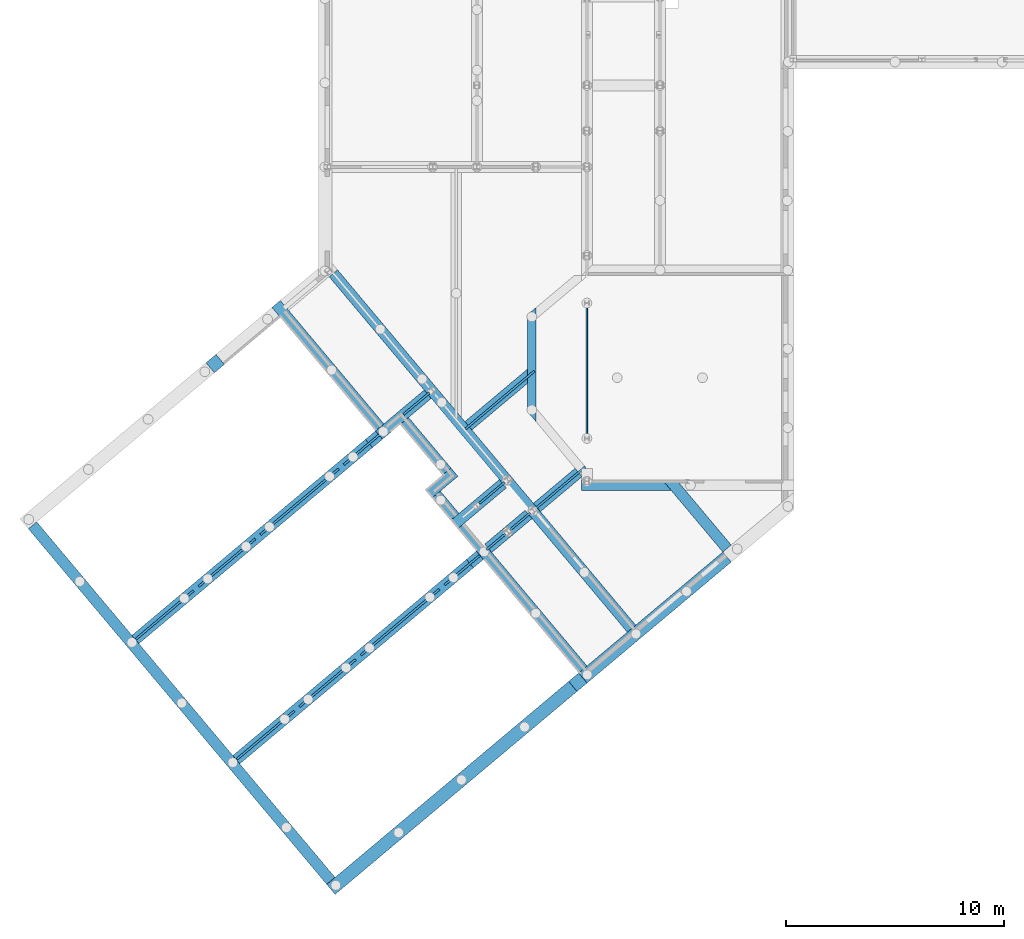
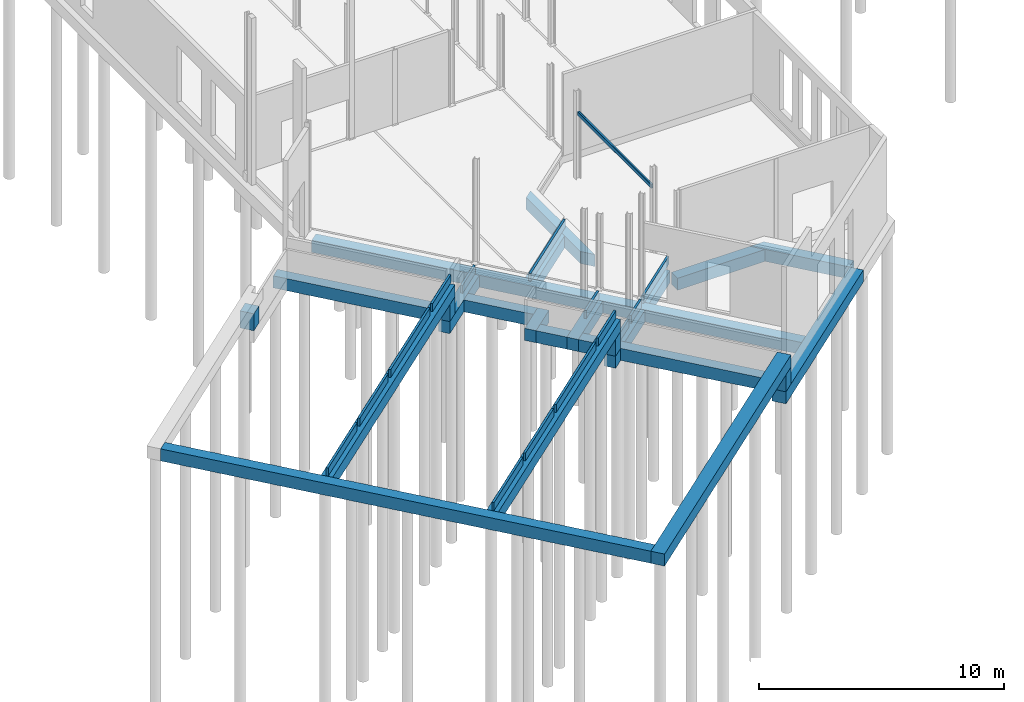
# One storey, part 11 of 18: 37 beams.
"""IFC2X3 building model written with IfcOpenShell, lengths in millimetres."""

from ifc_helpers import new_model, entity, si_unit, converted_unit, derived_unit, direction, frame, frame_2d, origin, origin_2d_with_axis, place, context, subcontext, project, spatial, polyline, circle_curve, parameter, trimmed, segment, composite_curve, rectangle, outline, extrude, clip, halfspace, source, transform, mapped, material, type_object, type_shapes, element, save


model = new_model("IFC2X3")

# Units and contexts
model_context = context("Model", 3, precision=0.01, world=origin(), true_north=direction((6.12303176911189e-17, 1.0)))
body_context = subcontext(model_context, "Body", "Model", "MODEL_VIEW")
ifc_project = project(units=[si_unit("LENGTHUNIT", "METRE", prefix="MILLI"), si_unit("AREAUNIT", "SQUARE_METRE"), si_unit("VOLUMEUNIT", "CUBIC_METRE"), converted_unit("PLANEANGLEUNIT", "DEGREE", entity("IfcRatioMeasure", 0.0174532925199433), si_unit("PLANEANGLEUNIT", "RADIAN"), dimensions=[0, 0, 0, 0, 0, 0, 0]), si_unit("MASSUNIT", "GRAM", prefix="KILO"), derived_unit("MASSDENSITYUNIT", [(si_unit("MASSUNIT", "GRAM", prefix="KILO"), 1), (si_unit("LENGTHUNIT", "METRE"), -3)]), derived_unit("MOMENTOFINERTIAUNIT", [(si_unit("LENGTHUNIT", "METRE"), 4)]), si_unit("TIMEUNIT", "SECOND"), si_unit("FREQUENCYUNIT", "HERTZ"), si_unit("THERMODYNAMICTEMPERATUREUNIT", "DEGREE_CELSIUS"), derived_unit("THERMALTRANSMITTANCEUNIT", [(si_unit("MASSUNIT", "GRAM", prefix="KILO"), 1), (si_unit("THERMODYNAMICTEMPERATUREUNIT", "KELVIN"), -1), (si_unit("TIMEUNIT", "SECOND"), -3)]), derived_unit("VOLUMETRICFLOWRATEUNIT", [(si_unit("LENGTHUNIT", "METRE"), 3), (si_unit("TIMEUNIT", "SECOND"), -1)]), si_unit("ELECTRICCURRENTUNIT", "AMPERE"), si_unit("ELECTRICVOLTAGEUNIT", "VOLT"), si_unit("POWERUNIT", "WATT"), si_unit("FORCEUNIT", "NEWTON", prefix="KILO"), si_unit("ILLUMINANCEUNIT", "LUX"), si_unit("LUMINOUSFLUXUNIT", "LUMEN"), si_unit("LUMINOUSINTENSITYUNIT", "CANDELA"), derived_unit("USERDEFINED", [(si_unit("MASSUNIT", "GRAM", prefix="KILO"), -1), (si_unit("LENGTHUNIT", "METRE"), -2), (si_unit("TIMEUNIT", "SECOND"), 3), (si_unit("LUMINOUSFLUXUNIT", "LUMEN"), 1)]), derived_unit("LINEARVELOCITYUNIT", [(si_unit("LENGTHUNIT", "METRE"), 1), (si_unit("TIMEUNIT", "SECOND"), -1)]), si_unit("PRESSUREUNIT", "PASCAL"), derived_unit("USERDEFINED", [(si_unit("LENGTHUNIT", "METRE"), -2), (si_unit("MASSUNIT", "GRAM", prefix="KILO"), 1), (si_unit("TIMEUNIT", "SECOND"), -2)]), derived_unit("LINEARFORCEUNIT", [(si_unit("MASSUNIT", "GRAM", prefix="KILO"), 1), (si_unit("LENGTHUNIT", "METRE"), 1), (si_unit("TIMEUNIT", "SECOND"), -2), (si_unit("LENGTHUNIT", "METRE"), -1)]), derived_unit("PLANARFORCEUNIT", [(si_unit("MASSUNIT", "GRAM", prefix="KILO"), 1), (si_unit("LENGTHUNIT", "METRE"), 1), (si_unit("TIMEUNIT", "SECOND"), -2), (si_unit("LENGTHUNIT", "METRE"), -2)])], contexts=[model_context])

# Site, building, storey
site_placement = place(None, origin())
site = spatial("IfcSite", under=ifc_project, at=site_placement, Name="Default", CompositionType="ELEMENT")
building_placement = place(site_placement, origin())
building = spatial("IfcBuilding", under=site, at=building_placement, CompositionType="ELEMENT")
storey_placement = place(building_placement, frame((0.0, 0.0, -1085.0)))
storey = spatial("IfcBuildingStorey", under=building, at=storey_placement, Name="-00 fundatie", CompositionType="ELEMENT", Elevation=-1085.0)

# Beams
ifc_material_1 = material(Name="f2_beton ihwg")
beam_type_1 = type_object("IfcBeamType", Name="BERSnl_28_SF_LIB_balk vierkant beton_gen_ISR:balk vierkant_gen_600X600", PredefinedType="JOIST")
beam_1_placement = place(storey_placement, frame((24971.5392660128, -7653.08595034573, 600.0), z_axis=(0.0, 0.0, 1.0), x_axis=(0.766044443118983, 0.642787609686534, 0.0)))
element("IfcBeam", 1, at=beam_1_placement, inside=storey, type_object=beam_type_1, material=ifc_material_1, Name="BERSnl_28_SF_LIB_balk vierkant beton_gen_ISR:balk vierkant_gen_600X600", ObjectType="BERSnl_28_SF_LIB_balk vierkant beton_gen_ISR:balk vierkant_gen_600X600", context=body_context, shape_type="SweptSolid", body=[
    extrude(rectangle(XDim=600.000000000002, YDim=600.000000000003, at=frame_2d((1.4210854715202e-13, -8.24229573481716e-13), x_axis=(1.0, 0.0))), frame((0.0, 0.0, -300.0), z_axis=(1.0, 0.0, 0.0), x_axis=(0.0, 0.0, -1.0)), (0.0, 0.0, 1.0), 9235.32804093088),
])
beam_2_placement = place(storey_placement, frame((14093.7081737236, -16780.6700078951, 2050.0), z_axis=(0.0, 0.0, 1.0), x_axis=(0.766044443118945, 0.642787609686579, 0.0)))
element("IfcBeam", 2, at=beam_2_placement, inside=storey, type_object=beam_type_1, material=ifc_material_1, Name="BERSnl_28_SF_LIB_balk vierkant beton_gen_ISR:balk vierkant_gen_600X600", ObjectType="BERSnl_28_SF_LIB_balk vierkant beton_gen_ISR:balk vierkant_gen_600X600", context=body_context, shape_type="SweptSolid", body=[
    extrude(rectangle(XDim=600.000000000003, YDim=600.0, at=frame_2d((0.0, -6.82121026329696e-13), x_axis=(1.0, 0.0))), frame((-290.00006610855, 0.0, -300.0), z_axis=(1.0, 0.0, 0.0), x_axis=(0.0, 0.0, -1.0)), (0.0, 0.0, 1.0), 15090.0000661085),
])
beam_type_2 = type_object("IfcBeamType", Name="BERSnl_28_SF_LIB_balk vierkant beton_gen_ISR:balk vierkant_gen_500X600", PredefinedType="JOIST")
beam_3_placement = place(storey_placement, frame((25615.4349765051, 1577.29662827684, 600.0)))
element("IfcBeam", 3, at=beam_3_placement, inside=storey, type_object=beam_type_2, material=ifc_material_1, Name="BERSnl_28_SF_LIB_balk vierkant beton_gen_ISR:balk vierkant_gen_500X600", ObjectType="BERSnl_28_SF_LIB_balk vierkant beton_gen_ISR:balk vierkant_gen_500X600", context=body_context, shape_type="SweptSolid", body=[
    clip(extrude(rectangle(XDim=600.000000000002, YDim=499.999999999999, at=frame_2d((-1.70530256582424e-13, 1.2590817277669e-11), x_axis=(1.0, 0.0))), frame((-250.0, 0.0, -300.0), z_axis=(1.0, 0.0, 0.0), x_axis=(0.0, 0.0, -1.0)), (0.0, 0.0, 1.0), 4126.53312396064), halfspace(frame((6229.77633009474, -3054.48604515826, 0.0), z_axis=(0.766044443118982, 0.642787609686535, 0.0), x_axis=(-0.642787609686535, 0.766044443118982, 0.0)), False)),
])
beam_4_placement = place(storey_placement, frame((32051.1379318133, -1333.67225557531, 600.0), z_axis=(0.0, 0.0, 1.0), x_axis=(-0.642787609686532, 0.766044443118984, 0.0)))
element("IfcBeam", 4, at=beam_4_placement, inside=storey, type_object=beam_type_2, material=ifc_material_1, Name="BERSnl_28_SF_LIB_balk vierkant beton_gen_ISR:balk vierkant_gen_500X600", ObjectType="BERSnl_28_SF_LIB_balk vierkant beton_gen_ISR:balk vierkant_gen_500X600", context=body_context, shape_type="SweptSolid", body=[
    clip(extrude(rectangle(XDim=600.000000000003, YDim=500.000000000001, at=frame_2d((-2.8421709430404e-14, 5.14432940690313e-12), x_axis=(1.0, 0.0))), frame((9.72655928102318, 0.0, -300.0), z_axis=(1.0, 0.0, 0.0), x_axis=(0.0, 0.0, -1.0)), (0.0, 0.0, 1.0), 4326.40017084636), halfspace(frame((4348.89819571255, 265.220439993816, -1081.02496759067), z_axis=(0.766044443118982, -0.642787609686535, 0.0), x_axis=(-0.642787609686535, -0.766044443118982, 0.0)), False)),
])
beam_5_placement = place(storey_placement, frame((14063.0663453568, -16806.3815547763, 2050.0), z_axis=(0.0, 0.0, 1.0), x_axis=(-0.642787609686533, 0.766044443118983, 0.0)))
element("IfcBeam", 5, at=beam_5_placement, inside=storey, type_object=beam_type_2, material=ifc_material_1, Name="BERSnl_28_SF_LIB_balk vierkant beton_gen_ISR:balk vierkant_gen_500X600", ObjectType="BERSnl_28_SF_LIB_balk vierkant beton_gen_ISR:balk vierkant_gen_500X600", context=body_context, shape_type="SweptSolid", body=[
    extrude(rectangle(XDim=600.000000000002, YDim=500.000000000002, at=origin_2d_with_axis()), frame((300.0, 0.0, -300.0), z_axis=(1.0, 0.0, 0.0), x_axis=(0.0, 0.0, -1.0)), (0.0, 0.0, 1.0), 21293.9999999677),
])
beam_6_placement = place(storey_placement, frame((25622.6770426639, -7106.71648211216, 600.0), z_axis=(0.0, 0.0, 1.0), x_axis=(-0.642787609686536, 0.766044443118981, 0.0)))
element("IfcBeam", 6, at=beam_6_placement, inside=storey, type_object=beam_type_2, material=ifc_material_1, Name="BERSnl_28_SF_LIB_balk vierkant beton_gen_ISR:balk vierkant_gen_500X600", ObjectType="BERSnl_28_SF_LIB_balk vierkant beton_gen_ISR:balk vierkant_gen_500X600", context=body_context, shape_type="SweptSolid", body=[
    extrude(rectangle(XDim=600.000000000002, YDim=500.000000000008, at=frame_2d((-5.6843418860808e-14, -2.70006239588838e-12), x_axis=(1.0, 0.0))), frame((300.0, 0.0, -300.0), z_axis=(1.0, 0.0, 0.0), x_axis=(0.0, 0.0, -1.0)), (0.0, 0.0, 1.0), 10974.9999999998),
])
beam_7_placement = place(storey_placement, frame((27855.6965943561, -5232.99059987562, 600.0), z_axis=(0.0, 0.0, 1.0), x_axis=(-0.642787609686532, 0.766044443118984, 0.0)))
element("IfcBeam", 7, at=beam_7_placement, inside=storey, type_object=beam_type_2, material=ifc_material_1, Name="BERSnl_28_SF_LIB_balk vierkant beton_gen_ISR:balk vierkant_gen_500X600", ObjectType="BERSnl_28_SF_LIB_balk vierkant beton_gen_ISR:balk vierkant_gen_500X600", context=body_context, shape_type="SweptSolid", body=[
    extrude(rectangle(XDim=600.000000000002, YDim=500.0, at=frame_2d((0.0, 4.53326265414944e-12), x_axis=(1.0, 0.0))), frame((300.0, 0.0, -300.0), z_axis=(1.0, 0.0, 0.0), x_axis=(0.0, 0.0, -1.0)), (0.0, 0.0, 1.0), 21281.2999999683),
])
beam_8_placement = place(storey_placement, frame((23131.2076631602, 397.436057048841, 600.0), z_axis=(0.0, 0.0, 1.0), x_axis=(0.766044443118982, 0.642787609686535, 0.0)))
element("IfcBeam", 8, at=beam_8_placement, inside=storey, type_object=beam_type_2, material=ifc_material_1, Name="BERSnl_28_SF_LIB_balk vierkant beton_gen_ISR:balk vierkant_gen_500X600", ObjectType="BERSnl_28_SF_LIB_balk vierkant beton_gen_ISR:balk vierkant_gen_500X600", context=body_context, shape_type="SweptSolid", body=[
    clip(extrude(rectangle(XDim=600.000000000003, YDim=499.999999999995, at=frame_2d((-2.8421709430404e-14, 7.105427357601e-14), x_axis=(1.0, 0.0))), frame((250.0, 0.0, -300.0), z_axis=(1.0, 0.0, 0.0), x_axis=(0.0, 0.0, -1.0)), (0.0, 0.0, 1.0), 2498.99524674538), halfspace(frame((2638.77747946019, -331.068124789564, 0.0), z_axis=(0.766044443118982, -0.642787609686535, 0.0), x_axis=(0.642787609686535, 0.766044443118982, 0.0)), False)),
])
beam_9_placement = place(storey_placement, frame((9338.57741416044, -11175.9548978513, 2050.0), z_axis=(0.0, 0.0, 1.0), x_axis=(0.766044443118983, 0.642787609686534, 0.0)))
element("IfcBeam", 9, at=beam_9_placement, inside=storey, type_object=beam_type_2, material=ifc_material_1, Name="BERSnl_28_SF_LIB_balk vierkant beton_gen_ISR:balk vierkant_gen_500X600", ObjectType="BERSnl_28_SF_LIB_balk vierkant beton_gen_ISR:balk vierkant_gen_500X600", context=body_context, shape_type="SweptSolid", body=[
    extrude(rectangle(XDim=600.000000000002, YDim=499.999999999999, at=frame_2d((8.5265128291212e-14, -1.16529008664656e-12), x_axis=(1.0, 0.0))), frame((250.0, 0.0, -300.0), z_axis=(1.0, 0.0, 0.0), x_axis=(0.0, 0.0, -1.0)), (0.0, 0.0, 1.0), 14590.0),
])
beam_10_placement = place(storey_placement, frame((4710.5066244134, -5660.4349073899, 2050.0), z_axis=(0.0, 0.0, 1.0), x_axis=(0.766044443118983, 0.642787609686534, 0.0)))
element("IfcBeam", 10, at=beam_10_placement, inside=storey, type_object=beam_type_2, material=ifc_material_1, Name="BERSnl_28_SF_LIB_balk vierkant beton_gen_ISR:balk vierkant_gen_500X600", ObjectType="BERSnl_28_SF_LIB_balk vierkant beton_gen_ISR:balk vierkant_gen_500X600", context=body_context, shape_type="SweptSolid", body=[
    extrude(rectangle(XDim=600.000000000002, YDim=500.000000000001, at=frame_2d((5.6843418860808e-14, 5.96855898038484e-13), x_axis=(1.0, 0.0))), frame((250.0, 0.0, -300.0), z_axis=(1.0, 0.0, 0.0), x_axis=(0.0, 0.0, -1.0)), (0.0, 0.0, 1.0), 14590.0),
])
beam_11_placement = place(storey_placement, frame((19716.7444848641, -68.3001387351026, 600.0), z_axis=(0.0, 0.0, 1.0), x_axis=(0.766044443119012, 0.642787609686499, 0.0)))
element("IfcBeam", 11, at=beam_11_placement, inside=storey, type_object=beam_type_2, material=ifc_material_1, Name="BERSnl_28_SF_LIB_balk vierkant beton_gen_ISR:balk vierkant_gen_500X600", ObjectType="BERSnl_28_SF_LIB_balk vierkant beton_gen_ISR:balk vierkant_gen_500X600", context=body_context, shape_type="SweptSolid", body=[
    extrude(rectangle(XDim=600.000000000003, YDim=499.999999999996, at=frame_2d((5.6843418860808e-14, -7.105427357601e-14), x_axis=(1.0, 0.0))), frame((-250.0, 0.0, -300.0), z_axis=(1.0, 0.0, 0.0), x_axis=(0.0, 0.0, -1.0)), (0.0, 0.0, 1.0), 2915.00000000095),
])
beam_12_placement = place(storey_placement, frame((18382.7347572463, 1210.36598133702, 600.0), z_axis=(0.0, 0.0, 1.0), x_axis=(0.766044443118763, 0.642787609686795, 0.0)))
element("IfcBeam", 12, at=beam_12_placement, inside=storey, type_object=beam_type_2, material=ifc_material_1, Name="BERSnl_28_SF_LIB_balk vierkant beton_gen_ISR:balk vierkant_gen_500X600", ObjectType="BERSnl_28_SF_LIB_balk vierkant beton_gen_ISR:balk vierkant_gen_500X600", context=body_context, shape_type="SweptSolid", body=[
    extrude(rectangle(XDim=600.000000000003, YDim=500.000000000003, at=frame_2d((8.5265128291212e-14, -1.4495071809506e-12), x_axis=(1.0, 0.0))), frame((-50.0, 0.0, -300.0), z_axis=(1.0, 0.0, 0.0), x_axis=(0.0, 0.0, -1.0)), (0.0, 0.0, 1.0), 1554.99999999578),
])
beam_13_placement = place(storey_placement, frame((19392.5742041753, 1959.31959521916, 600.0), z_axis=(0.0, 0.0, 1.0), x_axis=(-0.642787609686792, 0.766044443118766, 0.0)))
element("IfcBeam", 13, at=beam_13_placement, inside=storey, type_object=beam_type_2, material=ifc_material_1, Name="BERSnl_28_SF_LIB_balk vierkant beton_gen_ISR:balk vierkant_gen_500X600", ObjectType="BERSnl_28_SF_LIB_balk vierkant beton_gen_ISR:balk vierkant_gen_500X600", context=body_context, shape_type="SweptSolid", body=[
    extrude(rectangle(XDim=600.000000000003, YDim=500.000000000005, at=frame_2d((8.5265128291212e-14, 8.5265128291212e-14), x_axis=(1.0, 0.0))), frame((-75.0, 0.0, -300.0), z_axis=(1.0, 0.0, 0.0), x_axis=(0.0, 0.0, -1.0)), (0.0, 0.0, 1.0), 3425.38053019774),
])
beam_14_placement = place(storey_placement, frame((19987.9762517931, 4143.39338390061, 600.0), z_axis=(0.0, 0.0, 1.0), x_axis=(0.76604444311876, 0.642787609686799, 0.0)))
element("IfcBeam", 14, at=beam_14_placement, inside=storey, type_object=beam_type_2, material=ifc_material_1, Name="BERSnl_28_SF_LIB_balk vierkant beton_gen_ISR:balk vierkant_gen_500X600", ObjectType="BERSnl_28_SF_LIB_balk vierkant beton_gen_ISR:balk vierkant_gen_500X600", context=body_context, shape_type="SweptSolid", body=[
    clip(extrude(rectangle(XDim=600.000000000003, YDim=499.999999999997, at=frame_2d((2.8421709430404e-14, -2.01794136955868e-12), x_axis=(1.0, 0.0))), frame((250.0, 0.0, -300.0), z_axis=(1.0, 0.0, 0.0), x_axis=(0.0, 0.0, -1.0)), (0.0, 0.0, 1.0), 3748.66568402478), halfspace(frame((2859.16017551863, -1108.0097835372, 0.0), z_axis=(0.76604444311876, -0.6427876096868, 0.0), x_axis=(0.6427876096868, 0.76604444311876, 0.0)), False)),
])
beam_15_placement = place(storey_placement, frame((15618.9795450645, 3492.86069703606, 600.0), z_axis=(0.0, 0.0, 1.0), x_axis=(0.766044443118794, 0.642787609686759, 0.0)))
element("IfcBeam", 15, at=beam_15_placement, inside=storey, type_object=beam_type_2, material=ifc_material_1, Name="BERSnl_28_SF_LIB_balk vierkant beton_gen_ISR:balk vierkant_gen_500X600", ObjectType="BERSnl_28_SF_LIB_balk vierkant beton_gen_ISR:balk vierkant_gen_500X600", context=body_context, shape_type="SweptSolid", body=[
    extrude(rectangle(XDim=600.000000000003, YDim=500.000000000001, at=frame_2d((-2.8421709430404e-14, -2.43005615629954e-12), x_axis=(1.0, 0.0))), frame((0.0, 0.0, -300.0), z_axis=(1.0, 0.0, 0.0), x_axis=(0.0, 0.0, -1.0)), (0.0, 0.0, 1.0), 3515.00000000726),
])
beam_16_placement = place(storey_placement, frame((16113.2771449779, 4226.14500936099, 600.0), z_axis=(0.0, 0.0, 1.0), x_axis=(-0.642787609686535, 0.766044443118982, 0.0)))
element("IfcBeam", 16, at=beam_16_placement, inside=storey, type_object=beam_type_2, material=ifc_material_1, Name="BERSnl_28_SF_LIB_balk vierkant beton_gen_ISR:balk vierkant_gen_500X600", ObjectType="BERSnl_28_SF_LIB_balk vierkant beton_gen_ISR:balk vierkant_gen_500X600", context=body_context, shape_type="SweptSolid", body=[
    extrude(rectangle(XDim=600.000000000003, YDim=500.000000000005, at=frame_2d((8.5265128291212e-14, -1.70530256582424e-13), x_axis=(1.0, 0.0))), frame((6.00000003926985, 0.0, -300.0), z_axis=(1.0, 0.0, 0.0), x_axis=(0.0, 0.0, -1.0)), (0.0, 0.0, 1.0), 7393.99999996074),
])
beam_type_3 = type_object("IfcBeamType", Name="BERSnl_28_SF_LIB_balk vierkant beton_gen_ISR:balk vierkant_gen_400x600", PredefinedType="JOIST")
beam_17_placement = place(storey_placement, frame((23090.4349765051, 5033.84922350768, 600.0), z_axis=(0.0, 0.0, 1.0), x_axis=(0.0, 1.0, 0.0)))
element("IfcBeam", 17, at=beam_17_placement, inside=storey, type_object=beam_type_3, material=ifc_material_1, Name="BERSnl_28_SF_LIB_balk vierkant beton_gen_ISR:balk vierkant_gen_400x600", ObjectType="BERSnl_28_SF_LIB_balk vierkant beton_gen_ISR:balk vierkant_gen_400x600", context=body_context, shape_type="SweptSolid", body=[
    clip(clip(extrude(rectangle(XDim=600.000000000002, YDim=400.0, at=frame_2d((-1.70530256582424e-13, 0.0), x_axis=(1.0, 0.0))), frame((-549.495483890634, 0.0, -300.0), z_axis=(1.0, 0.0, 0.0), x_axis=(0.0, 0.0, -1.0)), (0.0, 0.0, 1.0), 5247.56972863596), halfspace(frame((-562.682473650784, -211.065198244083, 0.0), z_axis=(-0.642787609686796, 0.766044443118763, 0.0), x_axis=(0.766044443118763, 0.642787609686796, 0.0)), False)), halfspace(frame((4156.84767524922, 445.008708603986, 0.0), z_axis=(0.766044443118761, 0.642787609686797, 0.0), x_axis=(0.642787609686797, -0.766044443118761, 0.0)), False)),
])
beam_type_4 = type_object("IfcBeamType", Name="BERSnl_28_SF_LIB_balk vierkant beton_gen_ISR:balk vierkant_gen_600x850", PredefinedType="JOIST")
beam_18_placement = place(storey_placement, frame((24971.5392660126, -7653.08595034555, 1450.0), z_axis=(0.0, 0.0, 1.0), x_axis=(0.766044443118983, 0.642787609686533, 0.0)))
element("IfcBeam", 18, at=beam_18_placement, inside=storey, type_object=beam_type_4, material=ifc_material_1, Name="BERSnl_28_SF_LIB_balk vierkant beton_gen_ISR:balk vierkant_gen_600x850", ObjectType="BERSnl_28_SF_LIB_balk vierkant beton_gen_ISR:balk vierkant_gen_600x850", context=body_context, shape_type="SweptSolid", body=[
    extrude(rectangle(XDim=850.000000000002, YDim=599.999999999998, at=frame_2d((0.0, 1.81898940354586e-12), x_axis=(1.0, 0.0))), frame((0.0, 0.0, -425.0), z_axis=(1.0, 0.0, 0.0), x_axis=(0.0, 0.0, -1.0)), (0.0, 0.0, 1.0), 600.000000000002),
])
beam_19_placement = place(storey_placement, frame((8332.09845510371, 6965.35259482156, 1450.0), z_axis=(0.0, 0.0, 1.0), x_axis=(0.766044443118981, 0.642787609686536, 0.0)))
element("IfcBeam", 19, at=beam_19_placement, inside=storey, type_object=beam_type_4, material=ifc_material_1, Name="BERSnl_28_SF_LIB_balk vierkant beton_gen_ISR:balk vierkant_gen_600x850", ObjectType="BERSnl_28_SF_LIB_balk vierkant beton_gen_ISR:balk vierkant_gen_600x850", context=body_context, shape_type="SweptSolid", body=[
    extrude(rectangle(XDim=850.000000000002, YDim=599.999999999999, at=frame_2d((0.0, 4.54747350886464e-13), x_axis=(1.0, 0.0))), frame((0.0, 0.0, -425.0), z_axis=(1.0, 0.0, 0.0), x_axis=(0.0, 0.0, -1.0)), (0.0, 0.0, 1.0), 600.0),
])
beam_type_5 = type_object("IfcBeamType", Name="BERSnl_28_SF_LIB_balk vierkant beton_gen_ISR:balk vierkant_gen_500X600", PredefinedType="JOIST", material=ifc_material_1)
shared_shape = source(origin(), body_context, "Body", "SweptSolid", [
    extrude(rectangle(XDim=600.000000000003, YDim=499.999999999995, at=frame_2d((2.8421709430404e-14, -9.9475983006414e-14), x_axis=(1.0, 0.0))), frame((20247.039365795, -2022.6462210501, -785.0), z_axis=(0.766044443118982, 0.642787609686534, 0.0), x_axis=(0.0, 0.0, 1.0)), (0.0, 0.0, 1.0), 600.000000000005),
    extrude(rectangle(XDim=600.000000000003, YDim=500.0, at=frame_2d((-5.6843418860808e-14, 2.81374923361e-12), x_axis=(1.0, 0.0))), frame((21089.6882532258, -1315.57985039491, -785.0), z_axis=(0.766044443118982, 0.642787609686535, 0.0), x_axis=(0.0, 0.0, 1.0)), (0.0, 0.0, 1.0), 2415.00000000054),
])
type_shapes(beam_type_5, [shared_shape])
beam_20_placement = place(storey_placement, frame((0.0, 0.0, 1085.0)))
element("IfcBeam", 20, at=beam_20_placement, inside=storey, type_object=beam_type_5, Name="BERSnl_28_SF_LIB_balk vierkant beton_gen_ISR:balk vierkant_gen_500X600", ObjectType="BERSnl_28_SF_LIB_balk vierkant beton_gen_ISR:balk vierkant_gen_500X600", context=body_context, shape_type="MappedRepresentation", body=[
    mapped(shared_shape, transform((0.0, 0.0, 0.0), scale=1.0)),
])
beam_type_6 = type_object("IfcBeamType", Name="BERSnl_28_SF_LIB_balk vierkant beton_gen_ISR:balk vierkant_gen_500x850", PredefinedType="JOIST")
beam_21_placement = place(storey_placement, frame((20247.0503348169, -2022.65929342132, 1450.0), z_axis=(0.0, 0.0, 1.0), x_axis=(0.766044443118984, 0.642787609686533, 0.0)))
element("IfcBeam", 21, at=beam_21_placement, inside=storey, type_object=beam_type_6, material=ifc_material_1, Name="BERSnl_28_SF_LIB_balk vierkant beton_gen_ISR:balk vierkant_gen_500x850", ObjectType="BERSnl_28_SF_LIB_balk vierkant beton_gen_ISR:balk vierkant_gen_500x850", context=body_context, shape_type="SweptSolid", body=[
    extrude(rectangle(XDim=850.000000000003, YDim=500.000000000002, at=frame_2d((0.0, -2.94164692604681e-12), x_axis=(1.0, 0.0))), frame((0.0, 0.0, -425.0), z_axis=(1.0, 0.0, 0.0), x_axis=(0.0, 0.0, -1.0)), (0.0, 0.0, 1.0), 600.000000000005),
])
beam_22_placement = place(storey_placement, frame((15618.9795450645, 3492.86069703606, 1450.0), z_axis=(0.0, 0.0, 1.0), x_axis=(0.766044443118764, 0.642787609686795, 0.0)))
element("IfcBeam", 22, at=beam_22_placement, inside=storey, type_object=beam_type_6, material=ifc_material_1, Name="BERSnl_28_SF_LIB_balk vierkant beton_gen_ISR:balk vierkant_gen_500x850", ObjectType="BERSnl_28_SF_LIB_balk vierkant beton_gen_ISR:balk vierkant_gen_500x850", context=body_context, shape_type="SweptSolid", body=[
    extrude(rectangle(XDim=850.000000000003, YDim=499.999999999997, at=frame_2d((0.0, 1.10844666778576e-12), x_axis=(1.0, 0.0))), frame((0.0, 0.0, -425.0), z_axis=(1.0, 0.0, 0.0), x_axis=(0.0, 0.0, -1.0)), (0.0, 0.0, 1.0), 600.000000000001),
])
ifc_material_2 = material(Name="h2_staal S235")
beam_type_7 = type_object("IfcBeamType", Name="BERSnl_28_SF_LIB_balk koker ongelijk_gen_ISR:balk gen k200x100x10", PredefinedType="BEAM")
beam_23_placement = place(storey_placement, frame((25615.4349765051, 6872.29662827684, 3685.0), z_axis=(0.0, 0.0, 1.0), x_axis=(0.0, -1.0, 0.0)))
element("IfcBeam", 23, at=beam_23_placement, inside=storey, type_object=beam_type_7, material=ifc_material_2, Name="BERSnl_28_SF_LIB_balk koker ongelijk_gen_ISR:balk gen k200x100x10", ObjectType="BERSnl_28_SF_LIB_balk koker ongelijk_gen_ISR:balk gen k200x100x10", context=body_context, shape_type="SweptSolid", body=[
    extrude(outline(composite_curve([segment(trimmed(circle_curve(frame_2d((-30.0, -80.0), x_axis=(1.0, 0.0)), 20.0), [parameter(180.0)], [parameter(270.0)], True, "PARAMETER"), True, "CONTINUOUS"), segment(polyline([(-30.0, -100.0), (30.0, -100.0)]), True, "CONTINUOUS"), segment(trimmed(circle_curve(frame_2d((30.0, -80.0), x_axis=(1.0, 0.0)), 20.0), [parameter(270.0)], [parameter(5.08888749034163e-14)], True, "PARAMETER"), True, "CONTINUOUS"), segment(polyline([(50.0, -80.0), (50.0, 80.0)]), True, "CONTINUOUS"), segment(trimmed(circle_curve(frame_2d((30.0, 80.0), x_axis=(1.0, 0.0)), 20.0), [parameter(360.0)], [parameter(89.9999999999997)], True, "PARAMETER"), True, "CONTINUOUS"), segment(polyline([(30.0, 100.0), (-30.0, 100.0)]), True, "CONTINUOUS"), segment(trimmed(circle_curve(frame_2d((-30.0, 80.0), x_axis=(1.0, 0.0)), 20.0), [parameter(90.0000000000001)], [parameter(180.0)], True, "PARAMETER"), True, "CONTINUOUS"), segment(polyline([(-50.0, 80.0), (-50.0, -80.0)]), True, "CONTINUOUS")], self_intersect=False), holes=[composite_curve([segment(polyline([(30.0, -90.0), (-30.0, -90.0)]), True, "CONTINUOUS"), segment(trimmed(circle_curve(frame_2d((-30.0, -80.0), x_axis=(1.0, 0.0)), 10.0), [parameter(180.0)], [parameter(270.0)], True, "PARAMETER"), False, "CONTINUOUS"), segment(polyline([(-40.0, -80.0), (-40.0, 80.0)]), True, "CONTINUOUS"), segment(trimmed(circle_curve(frame_2d((-30.0, 80.0), x_axis=(1.0, 0.0)), 10.0), [parameter(90.0000000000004)], [parameter(180.0)], True, "PARAMETER"), False, "CONTINUOUS"), segment(polyline([(-30.0, 90.0), (30.0, 90.0)]), True, "CONTINUOUS"), segment(trimmed(circle_curve(frame_2d((30.0, 80.0), x_axis=(1.0, 0.0)), 10.0), [parameter(0.0)], [parameter(90.0000000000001)], True, "PARAMETER"), False, "CONTINUOUS"), segment(polyline([(40.0, 80.0), (40.0, -80.0)]), True, "CONTINUOUS"), segment(trimmed(circle_curve(frame_2d((30.0, -80.0), x_axis=(1.0, 0.0)), 10.0), [parameter(270.0)], [parameter(4.07110999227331e-13)], True, "PARAMETER"), False, "CONTINUOUS")], self_intersect=False)]), frame((-2955.0, 0.0, -100.0), z_axis=(1.0, 0.0, 0.0), x_axis=(0.0, -1.0, 0.0)), (0.0, 0.0, 1.0), 5994.99999996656),
])
beam_type_8 = type_object("IfcBeamType", Name="BERSnl_28_SF_LIB_balk vierkant beton_gen_ISR:balk vierkant 100x395", PredefinedType="JOIST")
beam_24_placement = place(storey_placement, frame((21007.7203730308, -1384.38134490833, 995.0), z_axis=(0.0, 0.0, 1.0), x_axis=(0.766044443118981, 0.642787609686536, 0.0)))
element("IfcBeam", 24, at=beam_24_placement, inside=storey, type_object=beam_type_8, material=ifc_material_1, Name="BERSnl_28_SF_LIB_balk vierkant beton_gen_ISR:balk vierkant 100x395", ObjectType="BERSnl_28_SF_LIB_balk vierkant beton_gen_ISR:balk vierkant 100x395", context=body_context, shape_type="SweptSolid", body=[
    extrude(rectangle(XDim=395.000000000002, YDim=99.9999999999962, at=frame_2d((2.8421709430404e-14, -1.03028696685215e-13), x_axis=(1.0, 0.0))), frame((7.39631752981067, 0.0, -197.500000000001), z_axis=(1.0, 0.0, 0.0), x_axis=(0.0, 0.0, -1.0)), (0.0, 0.0, 1.0), 1116.14863494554),
])
beam_25_placement = place(storey_placement, frame((23019.3134871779, 303.545695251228, 995.0), z_axis=(0.0, 0.0, 1.0), x_axis=(-0.766044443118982, -0.642787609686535, 0.0)))
element("IfcBeam", 25, at=beam_25_placement, inside=storey, type_object=beam_type_8, material=ifc_material_1, Name="BERSnl_28_SF_LIB_balk vierkant beton_gen_ISR:balk vierkant 100x395", ObjectType="BERSnl_28_SF_LIB_balk vierkant beton_gen_ISR:balk vierkant 100x395", context=body_context, shape_type="SweptSolid", body=[
    extrude(rectangle(XDim=395.000000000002, YDim=99.9999999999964, at=frame_2d((2.8421709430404e-14, 7.46069872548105e-14), x_axis=(1.0, 0.0))), frame((3.93252704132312, 0.0, -197.500000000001), z_axis=(1.0, 0.0, 0.0), x_axis=(0.0, 0.0, -1.0)), (0.0, 0.0, 1.0), 1198.47083486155),
])
beam_26_placement = place(storey_placement, frame((23250.76228357, 497.754294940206, 995.0), z_axis=(0.0, 0.0, 1.0), x_axis=(0.766044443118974, 0.642787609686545, 0.0)))
element("IfcBeam", 26, at=beam_26_placement, inside=storey, type_object=beam_type_8, material=ifc_material_1, Name="BERSnl_28_SF_LIB_balk vierkant beton_gen_ISR:balk vierkant 100x395", ObjectType="BERSnl_28_SF_LIB_balk vierkant beton_gen_ISR:balk vierkant 100x395", context=body_context, shape_type="SweptSolid", body=[
    extrude(rectangle(XDim=395.000000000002, YDim=99.9999999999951, at=frame_2d((-2.8421709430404e-14, -2.8421709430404e-14), x_axis=(1.0, 0.0))), frame((0.0, 0.0, -197.500000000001), z_axis=(1.0, 0.0, 0.0), x_axis=(0.0, 0.0, -1.0)), (0.0, 0.0, 1.0), 2990.0),
])
beam_27_placement = place(storey_placement, frame((18975.5114322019, -3089.60711763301, 2445.0), z_axis=(0.0, 0.0, 1.0), x_axis=(0.766044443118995, 0.642787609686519, 0.0)))
element("IfcBeam", 27, at=beam_27_placement, inside=storey, type_object=beam_type_8, material=ifc_material_1, Name="BERSnl_28_SF_LIB_balk vierkant beton_gen_ISR:balk vierkant 100x395", ObjectType="BERSnl_28_SF_LIB_balk vierkant beton_gen_ISR:balk vierkant 100x395", context=body_context, shape_type="SweptSolid", body=[
    extrude(rectangle(XDim=395.000000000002, YDim=99.9999999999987, at=frame_2d((7.105427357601e-14, 2.06057393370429e-13), x_axis=(1.0, 0.0))), frame((150.0, 0.0, -197.500000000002), z_axis=(1.0, 0.0, 0.0), x_axis=(0.0, 0.0, -1.0)), (0.0, 0.0, 1.0), 2101.39442191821),
])
beam_28_placement = place(storey_placement, frame((18855.1528126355, -3190.59999092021, 2445.0), z_axis=(0.0, 0.0, 1.0), x_axis=(-0.766044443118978, -0.64278760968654, 0.0)))
element("IfcBeam", 28, at=beam_28_placement, inside=storey, type_object=beam_type_8, material=ifc_material_1, Name="BERSnl_28_SF_LIB_balk vierkant beton_gen_ISR:balk vierkant 100x395", ObjectType="BERSnl_28_SF_LIB_balk vierkant beton_gen_ISR:balk vierkant 100x395", context=body_context, shape_type="SweptSolid", body=[
    extrude(rectangle(XDim=395.000000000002, YDim=99.9999999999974, at=frame_2d((0.0, -2.02504679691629e-13), x_axis=(1.0, 0.0))), frame((0.0, 0.0, -197.500000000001), z_axis=(1.0, 0.0, 0.0), x_axis=(0.0, 0.0, -1.0)), (0.0, 0.0, 1.0), 4715.0),
])
beam_29_placement = place(storey_placement, frame((12431.5888660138, -8580.61012937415, 2445.0), z_axis=(0.0, 0.0, 1.0), x_axis=(0.766044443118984, 0.642787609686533, 0.0)))
element("IfcBeam", 29, at=beam_29_placement, inside=storey, type_object=beam_type_8, material=ifc_material_1, Name="BERSnl_28_SF_LIB_balk vierkant beton_gen_ISR:balk vierkant 100x395", ObjectType="BERSnl_28_SF_LIB_balk vierkant beton_gen_ISR:balk vierkant 100x395", context=body_context, shape_type="SweptSolid", body=[
    extrude(rectangle(XDim=395.000000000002, YDim=99.9999999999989, at=origin_2d_with_axis()), frame((0.0, 0.0, -197.500000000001), z_axis=(1.0, 0.0, 0.0), x_axis=(0.0, 0.0, -1.0)), (0.0, 0.0, 1.0), 3366.27028203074),
])
beam_30_placement = place(storey_placement, frame((12190.070840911, -8783.26781516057, 2445.0), z_axis=(0.0, 0.0, 1.0), x_axis=(-0.766044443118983, -0.642787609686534, 0.0)))
element("IfcBeam", 30, at=beam_30_placement, inside=storey, type_object=beam_type_8, material=ifc_material_1, Name="BERSnl_28_SF_LIB_balk vierkant beton_gen_ISR:balk vierkant 100x395", ObjectType="BERSnl_28_SF_LIB_balk vierkant beton_gen_ISR:balk vierkant 100x395", context=body_context, shape_type="SweptSolid", body=[
    extrude(rectangle(XDim=395.000000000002, YDim=99.9999999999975, at=frame_2d((-7.105427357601e-14, 4.15667500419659e-13), x_axis=(1.0, 0.0))), frame((0.0, 0.0, -197.500000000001), z_axis=(1.0, 0.0, 0.0), x_axis=(0.0, 0.0, -1.0)), (0.0, 0.0, 1.0), 3442.57123357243),
])
beam_31_placement = place(storey_placement, frame((7562.00005116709, -3267.74782470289, 2445.0), z_axis=(0.0, 0.0, 1.0), x_axis=(-0.766044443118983, -0.642787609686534, 0.0)))
element("IfcBeam", 31, at=beam_31_placement, inside=storey, type_object=beam_type_8, material=ifc_material_1, Name="BERSnl_28_SF_LIB_balk vierkant beton_gen_ISR:balk vierkant 100x395", ObjectType="BERSnl_28_SF_LIB_balk vierkant beton_gen_ISR:balk vierkant 100x395", context=body_context, shape_type="SweptSolid", body=[
    extrude(rectangle(XDim=395.000000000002, YDim=99.9999999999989, at=frame_2d((-7.105427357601e-14, 9.73443547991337e-13), x_axis=(1.0, 0.0))), frame((0.0, 0.0, -197.500000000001), z_axis=(1.0, 0.0, 0.0), x_axis=(0.0, 0.0, -1.0)), (0.0, 0.0, 1.0), 3442.57123357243),
])
beam_32_placement = place(storey_placement, frame((7804.05367562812, -3064.64071769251, 2445.0), z_axis=(0.0, 0.0, 1.0), x_axis=(0.766044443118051, 0.642787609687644, 0.0)))
element("IfcBeam", 32, at=beam_32_placement, inside=storey, type_object=beam_type_8, material=ifc_material_1, Name="BERSnl_28_SF_LIB_balk vierkant beton_gen_ISR:balk vierkant 100x395", ObjectType="BERSnl_28_SF_LIB_balk vierkant beton_gen_ISR:balk vierkant 100x395", context=body_context, shape_type="SweptSolid", body=[
    extrude(rectangle(XDim=395.000000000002, YDim=99.999999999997, at=origin_2d_with_axis()), frame((0.0, 0.0, -197.500000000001), z_axis=(1.0, 0.0, 0.0), x_axis=(0.0, 0.0, -1.0)), (0.0, 0.0, 1.0), 3391.50204906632),
])
beam_33_placement = place(storey_placement, frame((14225.4557266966, 2323.5553749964, 2445.0), z_axis=(0.0, 0.0, 1.0), x_axis=(-0.766044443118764, -0.642787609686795, 0.0)))
element("IfcBeam", 33, at=beam_33_placement, inside=storey, type_object=beam_type_8, material=ifc_material_1, Name="BERSnl_28_SF_LIB_balk vierkant beton_gen_ISR:balk vierkant 100x395", ObjectType="BERSnl_28_SF_LIB_balk vierkant beton_gen_ISR:balk vierkant 100x395", context=body_context, shape_type="SweptSolid", body=[
    extrude(rectangle(XDim=395.000000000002, YDim=99.9999999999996, at=frame_2d((5.6843418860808e-14, -1.00541797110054e-12), x_axis=(1.0, 0.0))), frame((0.0, 0.0, -197.500000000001), z_axis=(1.0, 0.0, 0.0), x_axis=(0.0, 0.0, -1.0)), (0.0, 0.0, 1.0), 4690.0),
])
beam_34_placement = place(storey_placement, frame((14348.6091611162, 2425.57354431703, 2445.0), z_axis=(0.0, 0.0, 1.0), x_axis=(0.765754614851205, 0.643132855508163, 0.0)))
element("IfcBeam", 34, at=beam_34_placement, inside=storey, type_object=beam_type_8, material=ifc_material_1, Name="BERSnl_28_SF_LIB_balk vierkant beton_gen_ISR:balk vierkant 100x395", ObjectType="BERSnl_28_SF_LIB_balk vierkant beton_gen_ISR:balk vierkant 100x395", context=body_context, shape_type="SweptSolid", body=[
    extrude(rectangle(XDim=395.000000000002, YDim=99.9999999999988, at=frame_2d((5.6843418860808e-14, 2.06057393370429e-13), x_axis=(1.0, 0.0))), frame((149.932369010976, 0.0, -197.500000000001), z_axis=(1.0, 0.0, 0.0), x_axis=(0.0, 0.0, -1.0)), (0.0, 0.0, 1.0), 2206.84191738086),
])
beam_35_placement = place(storey_placement, frame((20003.5976311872, 4125.96054865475, 995.0), z_axis=(0.0, 0.0, 1.0), x_axis=(0.766044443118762, 0.642787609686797, 0.0)))
element("IfcBeam", 35, at=beam_35_placement, inside=storey, type_object=beam_type_8, material=ifc_material_1, Name="BERSnl_28_SF_LIB_balk vierkant beton_gen_ISR:balk vierkant 100x395", ObjectType="BERSnl_28_SF_LIB_balk vierkant beton_gen_ISR:balk vierkant 100x395", context=body_context, shape_type="SweptSolid", body=[
    extrude(rectangle(XDim=395.000000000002, YDim=100.000000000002, at=frame_2d((0.0, -3.05533376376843e-12), x_axis=(1.0, 0.0))), frame((50.0, 0.0, -197.500000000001), z_axis=(1.0, 0.0, 0.0), x_axis=(0.0, 0.0, -1.0)), (0.0, 0.0, 1.0), 4124.23893961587),
])
beam_36_placement = place(storey_placement, frame((21836.5842853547, 1713.06747059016, 995.0), z_axis=(0.0, 0.0, 1.0), x_axis=(-0.766044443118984, -0.642787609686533, 0.0)))
element("IfcBeam", 36, at=beam_36_placement, inside=storey, type_object=beam_type_8, material=ifc_material_1, Name="BERSnl_28_SF_LIB_balk vierkant beton_gen_ISR:balk vierkant 100x395", ObjectType="BERSnl_28_SF_LIB_balk vierkant beton_gen_ISR:balk vierkant 100x395", context=body_context, shape_type="SweptSolid", body=[
    extrude(rectangle(XDim=395.000000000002, YDim=97.9829352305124, at=frame_2d((2.8421709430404e-14, -1.61932689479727e-11), x_axis=(1.0, 0.0))), frame((3.93252704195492, 1.00853238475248, -197.500000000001), z_axis=(1.0, 0.0, 0.0), x_axis=(0.0, 0.0, -1.0)), (0.0, 0.0, 1.0), 1516.06747295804),
])
beam_37_placement = place(storey_placement, frame((18391.2426974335, 5819.06568570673, 995.0), z_axis=(0.0, 0.0, 1.0), x_axis=(-0.766044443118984, -0.642787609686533, 0.0)))
element("IfcBeam", 37, at=beam_37_placement, inside=storey, type_object=beam_type_8, material=ifc_material_1, Name="BERSnl_28_SF_LIB_balk vierkant beton_gen_ISR:balk vierkant 100x395", ObjectType="BERSnl_28_SF_LIB_balk vierkant beton_gen_ISR:balk vierkant 100x395", context=body_context, shape_type="SweptSolid", body=[
    extrude(outline(polyline([(-220.0, -33.6978947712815), (45.0, -33.6978947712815), (45.0, -32.6042104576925), (175.0, -32.604210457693), (175.0, 66.3021052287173), (-220.0, 66.3021052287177), (-220.0, -33.6978947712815)])), frame((3.93252704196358, -16.3021052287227, -220.0), z_axis=(1.0, 0.0, 0.0), x_axis=(0.0, 0.0, -1.0)), (0.0, 0.0, 1.0), 1546.06747295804),
])

save(model, "model.ifc")
